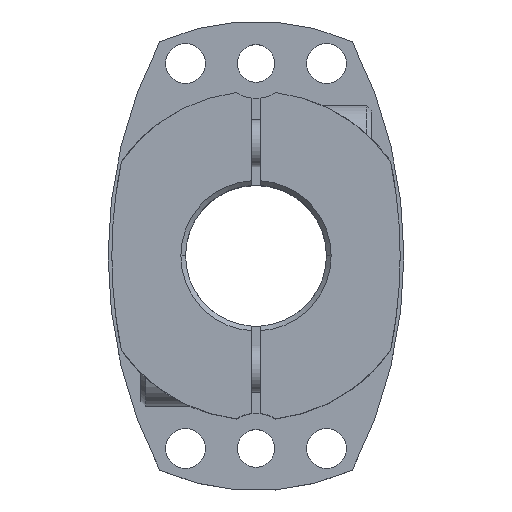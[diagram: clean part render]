
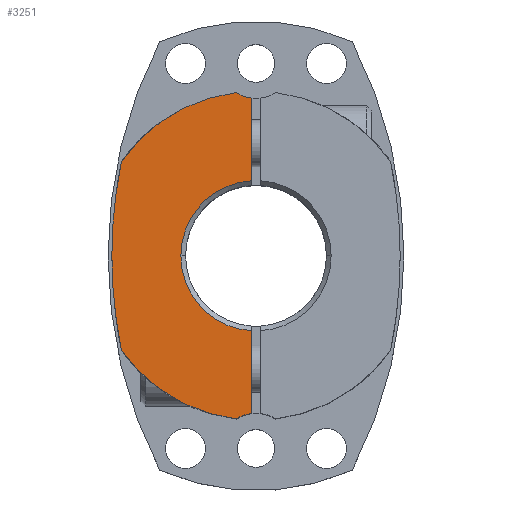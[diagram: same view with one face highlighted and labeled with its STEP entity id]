
A CAD part, top view. The second image highlights one B-rep face of the part: STEP entity #3251.
In plain terms, the highlighted planar face has unit normal (0, 0, 1).
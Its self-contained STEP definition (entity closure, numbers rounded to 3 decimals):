
#227=CARTESIAN_POINT('',(-16.0,0.,31.0));
#228=VERTEX_POINT('',#227);
#244=CARTESIAN_POINT('',(-1.0,15.969,31.0));
#245=VERTEX_POINT('',#244);
#259=CARTESIAN_POINT('',(0.0,0.0,31.0));
#260=DIRECTION('',(0.0,0.0,1.0));
#261=DIRECTION('',(-1.0,0.0,0.0));
#262=AXIS2_PLACEMENT_3D('',#259,#260,#261);
#263=CIRCLE('',#262,16.0);
#264=EDGE_CURVE('',#245,#228,#263,.T.);
#916=CARTESIAN_POINT('',(-30.7,0.,31.0));
#917=VERTEX_POINT('',#916);
#926=CARTESIAN_POINT('',(-28.638,20.121,31.0));
#927=VERTEX_POINT('',#926);
#928=CARTESIAN_POINT('',(68.5,0.,31.0));
#929=DIRECTION('',(0.0,0.0,-1.0));
#930=DIRECTION('',(1.0,0.0,0.0));
#931=AXIS2_PLACEMENT_3D('',#928,#929,#930);
#932=CIRCLE('',#931,99.2);
#933=EDGE_CURVE('',#917,#927,#932,.T.);
#2034=CARTESIAN_POINT('',(-28.638,-20.121,31.0));
#2035=VERTEX_POINT('',#2034);
#2042=CARTESIAN_POINT('',(68.5,0.,31.0));
#2043=DIRECTION('',(0.0,0.0,-1.0));
#2044=DIRECTION('',(1.0,0.0,0.0));
#2045=AXIS2_PLACEMENT_3D('',#2042,#2043,#2044);
#2046=CIRCLE('',#2045,99.2);
#2047=EDGE_CURVE('',#2035,#917,#2046,.T.);
#2553=CARTESIAN_POINT('',(-4.15,34.753,31.0));
#2554=VERTEX_POINT('',#2553);
#2555=CARTESIAN_POINT('',(0.,0.,31.0));
#2556=DIRECTION('',(0.0,0.0,-1.0));
#2557=DIRECTION('',(1.0,0.0,0.0));
#2558=AXIS2_PLACEMENT_3D('',#2555,#2556,#2557);
#2559=CIRCLE('',#2558,35.);
#2560=EDGE_CURVE('',#927,#2554,#2559,.T.);
#2896=CARTESIAN_POINT('',(-1.0,-15.969,31.0));
#2897=VERTEX_POINT('',#2896);
#2898=CARTESIAN_POINT('',(0.0,0.0,31.0));
#2899=DIRECTION('',(0.0,0.0,1.0));
#2900=DIRECTION('',(-1.0,0.0,0.0));
#2901=AXIS2_PLACEMENT_3D('',#2898,#2899,#2900);
#2902=CIRCLE('',#2901,16.0);
#2903=EDGE_CURVE('',#228,#2897,#2902,.T.);
#2928=CARTESIAN_POINT('',(-1.0,-33.567,31.0));
#2929=VERTEX_POINT('',#2928);
#2930=CARTESIAN_POINT('',(-1.0,-33.567,31.0));
#2931=DIRECTION('',(0.0,1.0,0.0));
#2932=VECTOR('',#2931,17.598);
#2933=LINE('',#2930,#2932);
#2934=EDGE_CURVE('',#2929,#2897,#2933,.T.);
#3009=CARTESIAN_POINT('',(-1.0,33.567,31.0));
#3010=VERTEX_POINT('',#3009);
#3017=CARTESIAN_POINT('',(-1.0,15.969,31.0));
#3018=DIRECTION('',(0.0,1.0,0.0));
#3019=VECTOR('',#3018,17.598);
#3020=LINE('',#3017,#3019);
#3021=EDGE_CURVE('',#245,#3010,#3020,.T.);
#3086=CARTESIAN_POINT('',(-4.15,-34.753,31.0));
#3087=VERTEX_POINT('',#3086);
#3088=CARTESIAN_POINT('',(0.,-41.,31.0));
#3089=DIRECTION('',(0.0,0.0,-1.0));
#3090=DIRECTION('',(1.0,0.0,0.0));
#3091=AXIS2_PLACEMENT_3D('',#3088,#3089,#3090);
#3092=CIRCLE('',#3091,7.5);
#3093=EDGE_CURVE('',#3087,#2929,#3092,.T.);
#3222=CARTESIAN_POINT('',(0.,0.,31.0));
#3223=DIRECTION('',(0.0,0.0,1.0));
#3224=DIRECTION('',(1.0,0.0,0.0));
#3225=AXIS2_PLACEMENT_3D('',#3222,#3223,#3224);
#3226=PLANE('',#3225);
#3227=ORIENTED_EDGE('',*,*,#264,.F.);
#3228=ORIENTED_EDGE('',*,*,#3021,.T.);
#3229=CARTESIAN_POINT('',(0.,41.,31.0));
#3230=DIRECTION('',(0.0,0.0,-1.0));
#3231=DIRECTION('',(1.0,0.0,0.0));
#3232=AXIS2_PLACEMENT_3D('',#3229,#3230,#3231);
#3233=CIRCLE('',#3232,7.5);
#3234=EDGE_CURVE('',#3010,#2554,#3233,.T.);
#3235=ORIENTED_EDGE('',*,*,#3234,.T.);
#3236=ORIENTED_EDGE('',*,*,#2560,.F.);
#3237=ORIENTED_EDGE('',*,*,#933,.F.);
#3238=ORIENTED_EDGE('',*,*,#2047,.F.);
#3239=CARTESIAN_POINT('',(0.,0.,31.0));
#3240=DIRECTION('',(0.0,0.0,-1.0));
#3241=DIRECTION('',(1.0,0.0,0.0));
#3242=AXIS2_PLACEMENT_3D('',#3239,#3240,#3241);
#3243=CIRCLE('',#3242,35.);
#3244=EDGE_CURVE('',#3087,#2035,#3243,.T.);
#3245=ORIENTED_EDGE('',*,*,#3244,.F.);
#3246=ORIENTED_EDGE('',*,*,#3093,.T.);
#3247=ORIENTED_EDGE('',*,*,#2934,.T.);
#3248=ORIENTED_EDGE('',*,*,#2903,.F.);
#3249=EDGE_LOOP('',(#3227,#3228,#3235,#3236,#3237,#3238,#3245,#3246,#3247,#3248));
#3250=FACE_OUTER_BOUND('',#3249,.T.);
#3251=ADVANCED_FACE('',(#3250),#3226,.T.);
